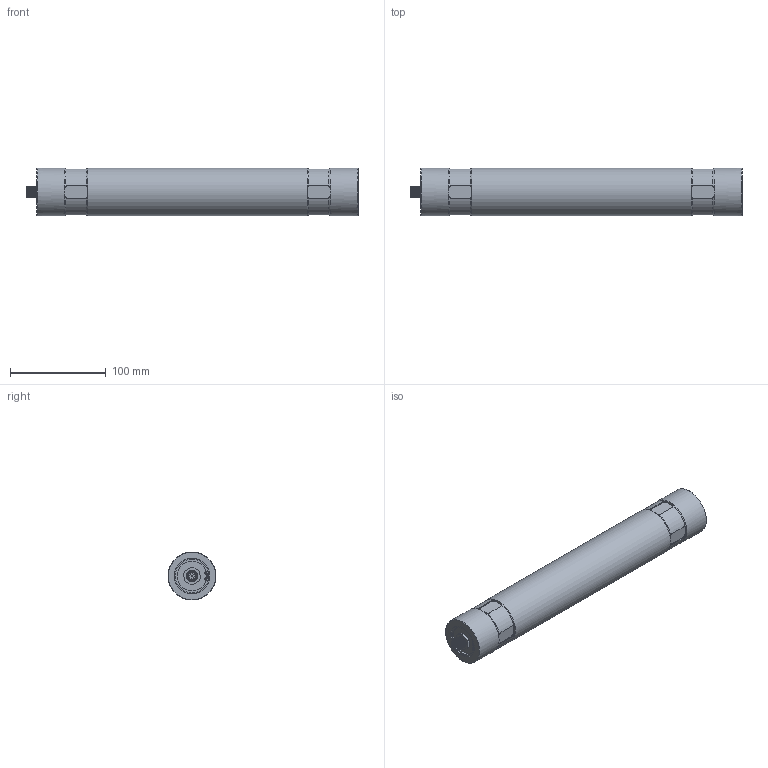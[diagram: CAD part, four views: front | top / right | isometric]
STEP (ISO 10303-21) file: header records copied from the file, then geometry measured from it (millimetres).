
FILE_DESCRIPTION(/* description */ ('Alibre Inc.'),/* implementation_level */ '2;1');
FILE_NAME(/* name */ 'export-34306625-8F6F-43DD-AC4D-3D1FCCC56C15',/* time_stamp */ '2020-03-19T12:06:06+01:00',/* author */ (''),/* organization */ (''),/* preprocessor_version */ 'ST-DEVELOPER v17',/* originating_system */ 'Alibre',/* authorisation */ '');
FILE_SCHEMA (('CONFIG_CONTROL_DESIGN'));
Length unit declared in the file: centimetre
Bounding box: 346.4 x 50 x 50 mm (x, y, z)
Volume: 647914.4 mm3; surface area: 64683.7 mm2
Topology: 11 solids, 12 shells, 349 faces, 821 edges, 506 vertices
Faces by surface type: plane 139, cylinder 129, cone 63, torus 18
Full cylindrical faces by diameter (mm): 0.5 x16, 6.8 x2, 8 x2, 10 x1, 11 x1, 11.5 x1, 12 x19, 13 x2, 14.5 x1, 34 x1, 35 x2, 37 x1, 50 x3
Entity records: 9370 total; most frequent: CARTESIAN_POINT 2064, ORIENTED_EDGE 1414, DIRECTION 1201, EDGE_CURVE 697, AXIS2_PLACEMENT_3D 520, FACE_BOUND 488, EDGE_LOOP 486, VERTEX_POINT 485
